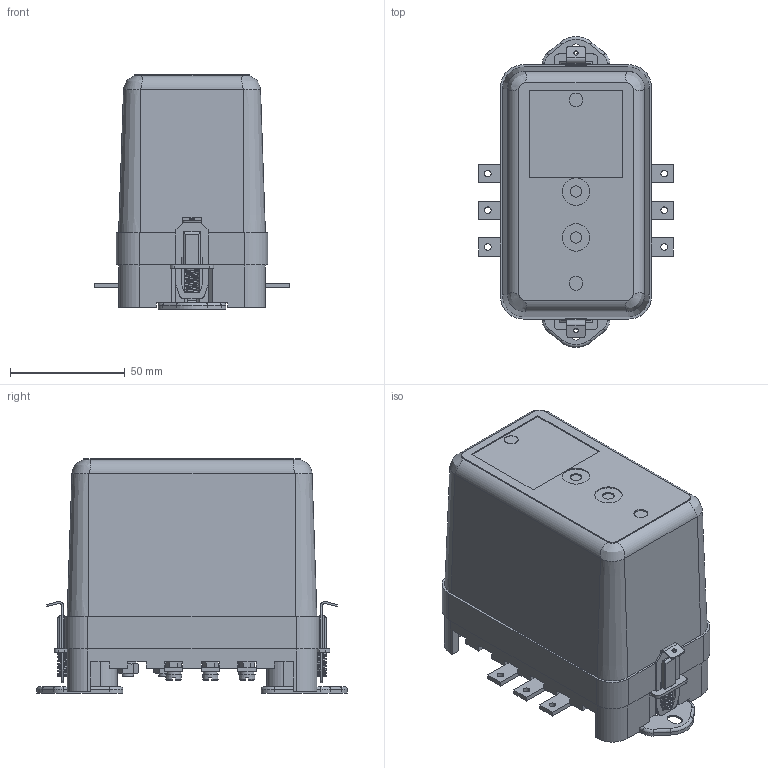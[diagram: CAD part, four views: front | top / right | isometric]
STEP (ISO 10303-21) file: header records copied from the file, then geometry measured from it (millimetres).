
FILE_DESCRIPTION(('STEP AP214'), '1');
FILE_NAME('ÂÓ200 ï.ï', '', ('UNSPECIFIED'), ('UNSPECIFIED'), 'ASCON STEP Converter 1.3', 'ASCON Math Kernel', '');
FILE_SCHEMA(('AUTOMOTIVE_DESIGN { 1 0 10303 214 3 1 1}'));
Length unit declared in the file: millimetre
Bounding box: 85 x 135.6 x 102.3 mm (x, y, z)
Volume: 148623.8 mm3; surface area: 101627.1 mm2
Topology: 1 solids, 1 shells, 1166 faces, 3170 edges, 2018 vertices
Faces by surface type: plane 752, cylinder 286, torus 65, cone 47, bspline 14, sphere 2
Full cylindrical faces by diameter (mm): 2 x2, 2.917 x6, 3 x2, 3.2 x1, 3.242 x6, 3.4 x1, 3.5 x2, 4 x12, 4.3 x6, 5 x6, 5.3 x2, 5.5 x4, 6 x3, 9 x2, 12 x2
Entity records: 57440 total; most frequent: CARTESIAN_POINT 19012, ORIENTED_EDGE 6090, DIRECTION 5863, EDGE_CURVE 3045, VERTEX_POINT 2011, LINE 2009, VECTOR 2009, AXIS2_PLACEMENT_3D 1927
